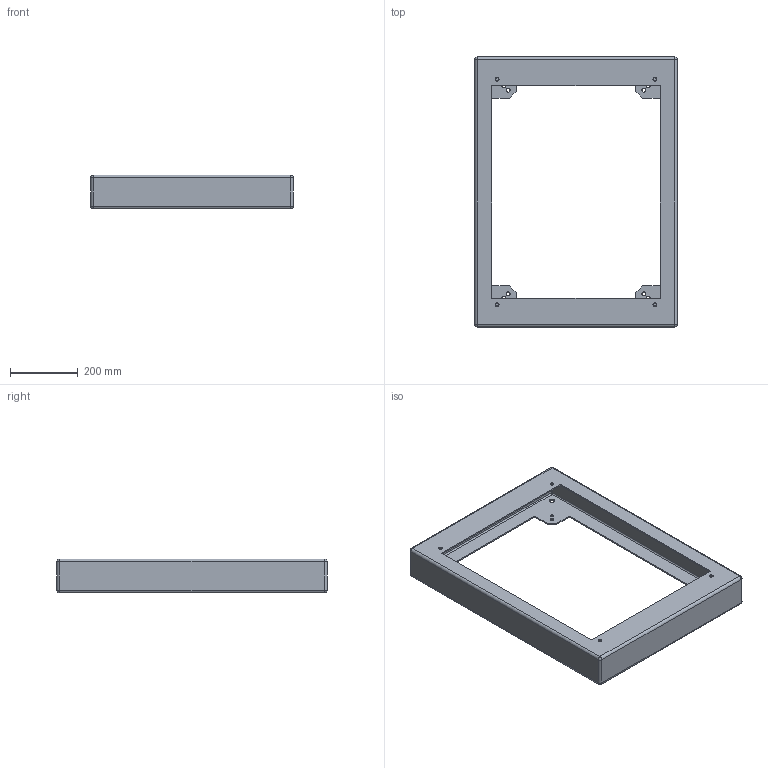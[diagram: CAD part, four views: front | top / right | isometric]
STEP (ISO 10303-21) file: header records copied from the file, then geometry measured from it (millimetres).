
FILE_DESCRIPTION(('STEP AP242'), '1');
FILE_NAME('2810 Öîêîëü ñåéñìîñòîéêèé', '', ('UNSPECIFIED'), ('UNSPECIFIED'), 'C3D Converter', 'C3D Toolkit', '');
FILE_SCHEMA(('AP242_MANAGED_MODEL_BASED_3D_ENGINEERING_MIM_LF { 1 0 10303 442 1 1 4 }'));
Length unit declared in the file: millimetre
Products named in the file (1): 2810.80.60
Bounding box: 597 x 797 x 100 mm (x, y, z)
Volume: 2211541.7 mm3; surface area: 1126762.2 mm2
Topology: 1 solids, 1 shells, 141 faces, 338 edges, 193 vertices
Faces by surface type: plane 64, cylinder 44, cone 17, sphere 16
Full cylindrical faces by diameter (mm): 8.376 x4, 11 x12, 16 x4
Entity records: 6792 total; most frequent: CARTESIAN_POINT 2556, DIRECTION 626, ORIENTED_EDGE 570, EDGE_CURVE 285, AXIS2_PLACEMENT_3D 247, EDGE_LOOP 222, VERTEX_POINT 193, FACE_BOUND 156
